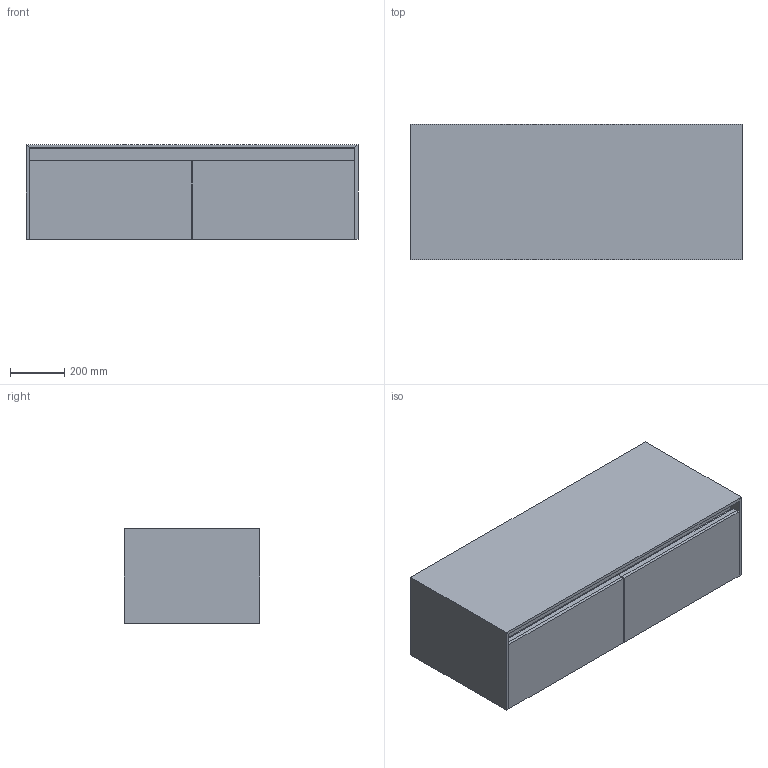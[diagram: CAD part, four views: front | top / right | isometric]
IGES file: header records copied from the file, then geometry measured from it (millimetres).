
Global section: file name: \\Archi-NAS\Comune\X GIOVANNI\MOBILI\VICTORIA\VICTORIA 8.igs; native system: Rhinoceros ( Jan 17 2018 ); preprocessor: Trout Lake IGES 012 Jan 17 2018; date: 230608.070305; units: millimetre
Bounding box: 1224 x 500 x 350 mm (x, y, z)
Surface area: 9346426.4 mm2 (no closed solid volume)
Topology: 0 solids, 0 shells, 140 faces, 600 edges, 600 vertices
Faces by surface type: bspline 140
